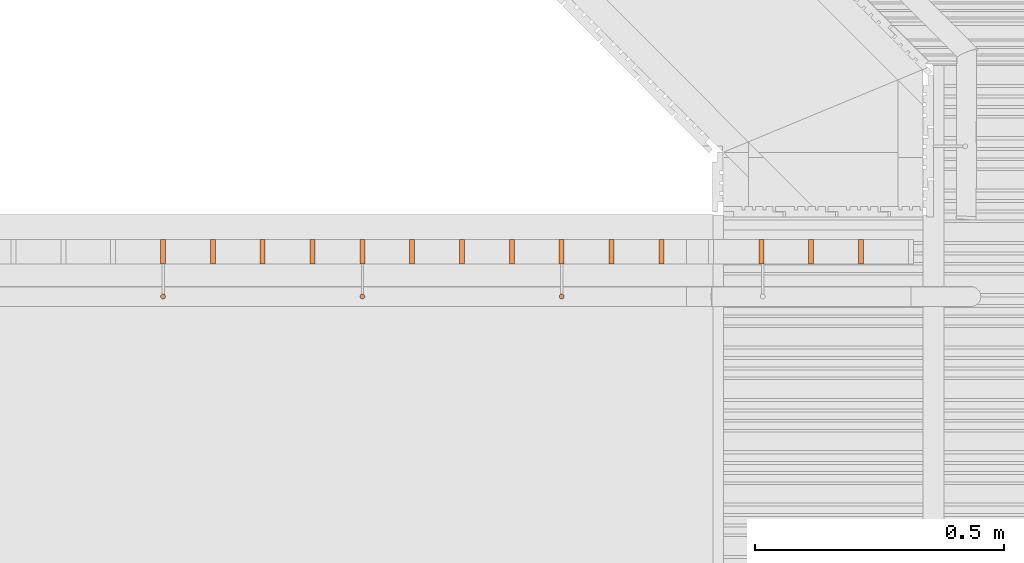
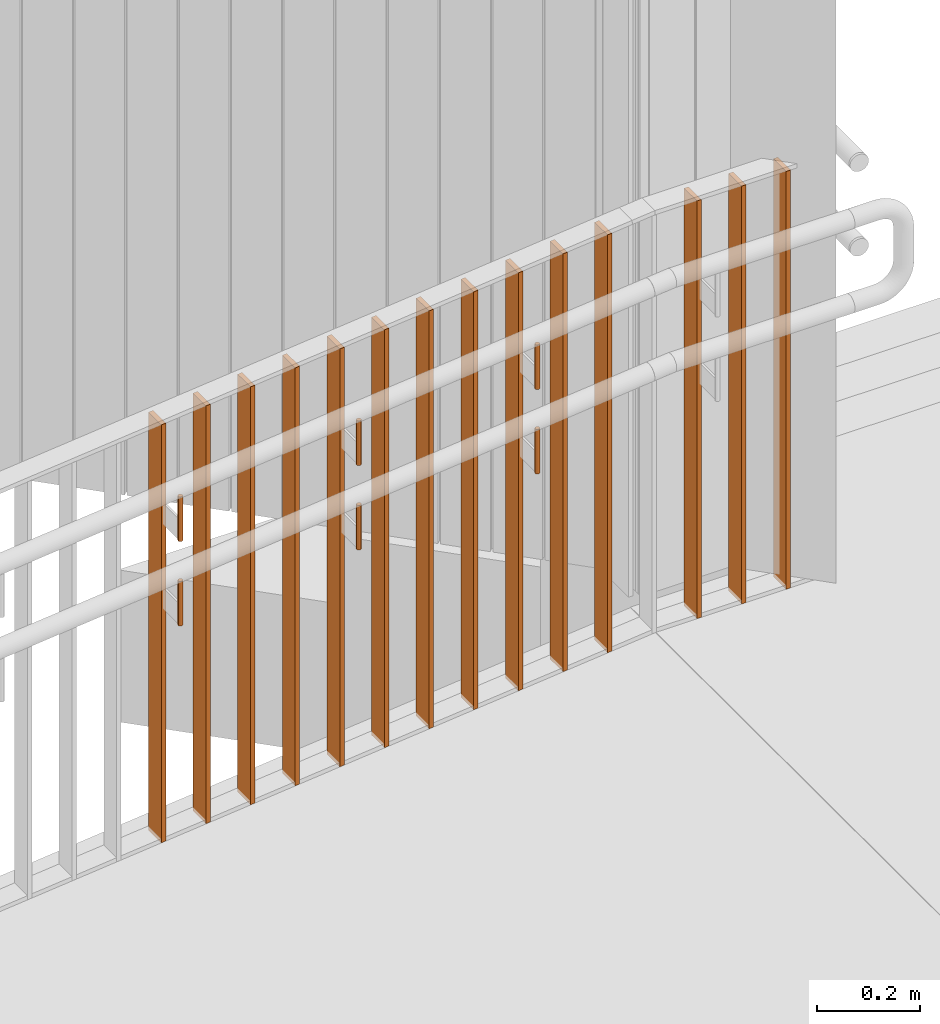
# One storey, part 373 of 418: 20 proxies, 1 element without a shape of its own.
"""IFC2X3 building model written with IfcOpenShell, lengths in millimetres."""

from ifc_helpers import new_model, entity, si_unit, converted_unit, derived_unit, money_unit, direction, frame, origin_with_axes, origin_2d_with_axis, place, context, subcontext, project, spatial, circle, extrude, faceted_brep, source, transform, mapped, material, type_object, element, aggregate, save


model = new_model("IFC2X3")

# Units and contexts
model_context = context("Model", 3, precision=0.01, world=origin_with_axes(), true_north=direction((0.0, 1.0)))
body_context = subcontext(model_context, "Body", "Model", "MODEL_VIEW")
ifc_project = project(units=[si_unit("LENGTHUNIT", "METRE", prefix="MILLI"), si_unit("AREAUNIT", "SQUARE_METRE"), si_unit("VOLUMEUNIT", "CUBIC_METRE"), converted_unit("PLANEANGLEUNIT", "DEGREE", entity("IfcPlaneAngleMeasure", 0.0174532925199), si_unit("PLANEANGLEUNIT", "RADIAN"), dimensions=[0, 0, 0, 0, 0, 0, 0]), si_unit("SOLIDANGLEUNIT", "STERADIAN"), money_unit("EUR"), converted_unit("TIMEUNIT", "Year", entity("IfcTimeMeasure", 31556926.0), si_unit("TIMEUNIT", "SECOND"), dimensions=[0, 0, 1, 0, 0, 0, 0]), si_unit("MASSUNIT", "GRAM", prefix="KILO"), si_unit("THERMODYNAMICTEMPERATUREUNIT", "DEGREE_CELSIUS"), si_unit("LUMINOUSINTENSITYUNIT", "LUMEN"), si_unit("ENERGYUNIT", "JOULE", prefix="MEGA"), derived_unit("THERMALCONDUCTANCEUNIT", [(si_unit("POWERUNIT", "WATT"), 1), (si_unit("LENGTHUNIT", "METRE"), -1), (si_unit("THERMODYNAMICTEMPERATUREUNIT", "KELVIN"), -1)]), derived_unit("SPECIFICHEATCAPACITYUNIT", [(si_unit("ENERGYUNIT", "JOULE"), 1), (si_unit("MASSUNIT", "GRAM", prefix="KILO"), -1), (si_unit("THERMODYNAMICTEMPERATUREUNIT", "KELVIN"), -1)]), derived_unit("MASSDENSITYUNIT", [(si_unit("MASSUNIT", "GRAM", prefix="KILO"), 1), (si_unit("VOLUMEUNIT", "CUBIC_METRE"), -1)])], contexts=[model_context])

# Site, building, storey
site_placement = place(None, origin_with_axes())
site = spatial("IfcSite", under=ifc_project, at=site_placement, Name="Paldiski mnt 245/1, Tallinn, Harjumaa", CompositionType="COMPLEX")
building_placement = place(site_placement, origin_with_axes())
building = spatial("IfcBuilding", under=site, at=building_placement, Name="RKAS Hoone üldnimetus (kasutust iseloomustav) -> IFC Project Manager -> SOLIBRI", CompositionType="ELEMENT")
storey_placement = place(building_placement, origin_with_axes())
storey = spatial("IfcBuildingStorey", under=building, at=storey_placement, Name="Esimene korrus", CompositionType="ELEMENT", Elevation=0.0)

# Proxies
ifc_material_1 = material(Name="ET-07_Teras - Roostevaba")
building_element_proxy_type_1 = type_object("IfcBuildingElementProxyType", Name="ET-07_Teras - Roostevaba D10", PredefinedType="NOTDEFINED")
for number, where, z_axis, x_axis, name in (
    (1, (-53723.2380713, 38424.7311931, 703.953624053), (0.0, 0.0, 1.0), (0.0, 1.0, 0.0), "POST"),
    (2, (-53723.2380713, 38424.7311931, 503.953574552), (0.0, 0.0, 1.0), (0.0, 1.0, 0.0), "POST"),
    (3, (-54123.2887744, 38424.7311931, 663.948553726), (0.0, 0.0, 1.0), (0.0, 1.0, 0.0), "POST"),
    (4, (-54123.2887744, 38424.7311931, 463.948504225), (0.0, 0.0, 1.0), (0.0, 1.0, 0.0), "POST"),
    (5, (-54523.2887744, 38424.7311931, 623.948553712), (0.0, 0.0, 1.0), (0.0, 1.0, 0.0), "POST"),
    (6, (-54523.2887744, 38424.7311931, 423.948504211), (0.0, 0.0, 1.0), (0.0, 1.0, 0.0), "POST"),
):
    element("IfcBuildingElementProxy", number, at=place(storey_placement, frame(where, z_axis=z_axis, x_axis=x_axis)), inside=storey, type_object=building_element_proxy_type_1, material=ifc_material_1, Name=name, context=body_context, shape_type="SweptSolid", body=[
        extrude(circle(Radius=5.0, at=origin_2d_with_axis()), frame((0.0, 0.0, 0.0), z_axis=(0.0, 0.0, -1.0), x_axis=(-1.0, 0.0, 0.0)), (0.0, 0.0, -1.0), 106.0),
    ])

# Railing, proxies
railing_type = type_object("IfcRailingType", Name="Railing Type", PredefinedType="NOTDEFINED")
railing_placement = place(storey_placement, frame((-53022.826789, 38539.7311919, -669.703891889), z_axis=(0.0, 0.0, 1.0), x_axis=(-0.773149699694, -0.634223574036, 0.0)))
railing = element("IfcRailing", 7, at=railing_placement, inside=storey, type_object=railing_type, Name="Trepipiire", PredefinedType="NOTDEFINED")
ifc_material_2 = material(Name="RAL7016")
building_element_proxy_type_2 = type_object("IfcBuildingElementProxyType", Name="IfcBuildingElementProxy", PredefinedType="NOTDEFINED")
shared_shape_1 = source(origin_with_axes(), body_context, "Body", "Brep", [
    faceted_brep([(25.0, 5.0, 0.000155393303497), (-25.0, 5.0, 0.000155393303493), (-25.0, 5.0, 990.000167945), (25.0, 5.0, 990.000167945), (25.0, -5.0, -0.000155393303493), (-25.0, -5.0, -0.000155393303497), (-25.0, -5.0, 989.999857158), (25.0, -5.0, 989.999857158)], [[[0, 1, 2, 3]], [[0, 4, 5, 1]], [[1, 5, 6, 2]], [[3, 2, 6, 7]], [[4, 0, 3, 7]], [[5, 4, 7, 6]]]),
])
proxy_1_placement = place(railing_placement, frame((93.1705591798, -44.0936152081, 649.531014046), z_axis=(0.0, 0.0, 1.0), x_axis=(-0.773149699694, 0.634223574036, 0.0)))
proxy_1 = element("IfcBuildingElementProxy", 8, at=proxy_1_placement, type_object=building_element_proxy_type_2, material=ifc_material_2, Name="BALUSTER - 001", context=body_context, shape_type="MappedRepresentation", body=[
    mapped(shared_shape_1, transform((0.0, 0.0, 0.0), x_axis=(3.18616450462e-09, 1.0, 0.0), y_axis=(-1.0, 3.18616450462e-09, 0.0), z_axis=(0.0, 0.0, 1.0))),
])
proxy_2_placement = place(railing_placement, frame((170.485528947, -107.515972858, 649.534121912), z_axis=(0.0, 0.0, 1.0), x_axis=(-0.773149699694, 0.634223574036, 0.0)))
proxy_2 = element("IfcBuildingElementProxy", 9, at=proxy_2_placement, type_object=building_element_proxy_type_2, material=ifc_material_2, Name="BALUSTER - 001", context=body_context, shape_type="MappedRepresentation", body=[
    mapped(shared_shape_1, transform((0.0, 0.0, 0.0), x_axis=(3.18617449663e-09, 1.0, 0.0), y_axis=(-1.0, 3.18617449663e-09, 0.0), z_axis=(0.0, 0.0, 1.0))),
])
proxy_3_placement = place(railing_placement, frame((247.800498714, -170.938330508, 649.537229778), z_axis=(0.0, 0.0, 1.0), x_axis=(-0.773149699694, 0.634223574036, 0.0)))
proxy_3 = element("IfcBuildingElementProxy", 10, at=proxy_3_placement, type_object=building_element_proxy_type_2, material=ifc_material_2, Name="BALUSTER - 001", context=body_context, shape_type="MappedRepresentation", body=[
    mapped(shared_shape_1, transform((0.0, 0.0, 0.0), x_axis=(3.18613341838e-09, 1.0, 0.0), y_axis=(-1.0, 3.18613341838e-09, 0.0), z_axis=(0.0, 0.0, 1.0))),
])
shared_shape_2 = source(origin_with_axes(), body_context, "Body", "Brep", [
    faceted_brep([(25.0, 5.0, -0.500145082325), (-25.0, 5.0, -0.500145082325), (-25.0, 5.0, 989.499867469), (25.0, 5.0, 989.499867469), (25.0, -5.0, 0.500145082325), (-25.0, -5.0, 0.500145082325), (-25.0, -5.0, 990.500157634), (25.0, -5.0, 990.500157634)], [[[0, 1, 2, 3]], [[0, 4, 5, 1]], [[1, 5, 6, 2]], [[3, 2, 6, 7]], [[4, 0, 3, 7]], [[5, 4, 7, 6]]]),
])
proxy_4_placement = place(railing_placement, frame((402.787622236, -298.076047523, 639.537450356), z_axis=(0.0, 0.0, 1.0), x_axis=(-0.773149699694, 0.634223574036, 0.0)))
proxy_4 = element("IfcBuildingElementProxy", 11, at=proxy_4_placement, type_object=building_element_proxy_type_2, material=ifc_material_2, Name="BALUSTER - 001", context=body_context, shape_type="MappedRepresentation", body=[
    mapped(shared_shape_2, transform((0.0, 0.0, 0.0), x_axis=(0.0, 1.0, 0.0), y_axis=(-1.0, 0.0, 0.0), z_axis=(0.0, 0.0, 1.0))),
])
proxy_5_placement = place(railing_placement, frame((480.102592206, -361.498404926, 629.534548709), z_axis=(0.0, 0.0, 1.0), x_axis=(-0.773149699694, 0.634223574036, 0.0)))
proxy_5 = element("IfcBuildingElementProxy", 12, at=proxy_5_placement, type_object=building_element_proxy_type_2, material=ifc_material_2, Name="BALUSTER - 001", context=body_context, shape_type="MappedRepresentation", body=[
    mapped(shared_shape_2, transform((0.0, 0.0, 0.0), x_axis=(0.0, 1.0, 0.0), y_axis=(-1.0, 0.0, 0.0), z_axis=(0.0, 0.0, 1.0))),
])
proxy_6_placement = place(railing_placement, frame((557.417562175, -424.92076233, 619.531647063), z_axis=(0.0, 0.0, 1.0), x_axis=(-0.773149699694, 0.634223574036, 0.0)))
proxy_6 = element("IfcBuildingElementProxy", 13, at=proxy_6_placement, type_object=building_element_proxy_type_2, material=ifc_material_2, Name="BALUSTER - 001", context=body_context, shape_type="MappedRepresentation", body=[
    mapped(shared_shape_2, transform((0.0, 0.0, 0.0), x_axis=(0.0, 1.0, 0.0), y_axis=(-1.0, 0.0, 0.0), z_axis=(0.0, 0.0, 1.0))),
])
proxy_7_placement = place(railing_placement, frame((634.732532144, -488.343119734, 609.528745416), z_axis=(0.0, 0.0, 1.0), x_axis=(-0.773149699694, 0.634223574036, 0.0)))
proxy_7 = element("IfcBuildingElementProxy", 14, at=proxy_7_placement, type_object=building_element_proxy_type_2, material=ifc_material_2, Name="BALUSTER - 001", context=body_context, shape_type="MappedRepresentation", body=[
    mapped(shared_shape_2, transform((0.0, 0.0, 0.0), x_axis=(0.0, 1.0, 0.0), y_axis=(-1.0, 0.0, 0.0), z_axis=(0.0, 0.0, 1.0))),
])
proxy_8_placement = place(railing_placement, frame((712.047502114, -551.765477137, 599.52584377), z_axis=(0.0, 0.0, 1.0), x_axis=(-0.773149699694, 0.634223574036, 0.0)))
proxy_8 = element("IfcBuildingElementProxy", 15, at=proxy_8_placement, type_object=building_element_proxy_type_2, material=ifc_material_2, Name="BALUSTER - 001", context=body_context, shape_type="MappedRepresentation", body=[
    mapped(shared_shape_2, transform((0.0, 0.0, 0.0), x_axis=(0.0, 1.0, 0.0), y_axis=(-1.0, 0.0, 0.0), z_axis=(0.0, 0.0, 1.0))),
])
proxy_9_placement = place(railing_placement, frame((789.362472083, -615.187834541, 589.522942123), z_axis=(0.0, 0.0, 1.0), x_axis=(-0.773149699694, 0.634223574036, 0.0)))
proxy_9 = element("IfcBuildingElementProxy", 16, at=proxy_9_placement, type_object=building_element_proxy_type_2, material=ifc_material_2, Name="BALUSTER - 001", context=body_context, shape_type="MappedRepresentation", body=[
    mapped(shared_shape_2, transform((0.0, 0.0, 0.0), x_axis=(0.0, 1.0, 0.0), y_axis=(-1.0, 0.0, 0.0), z_axis=(0.0, 0.0, 1.0))),
])
proxy_10_placement = place(railing_placement, frame((866.677442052, -678.610191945, 579.520040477), z_axis=(0.0, 0.0, 1.0), x_axis=(-0.773149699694, 0.634223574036, 0.0)))
proxy_10 = element("IfcBuildingElementProxy", 17, at=proxy_10_placement, type_object=building_element_proxy_type_2, material=ifc_material_2, Name="BALUSTER - 001", context=body_context, shape_type="MappedRepresentation", body=[
    mapped(shared_shape_2, transform((0.0, 0.0, 0.0), x_axis=(0.0, 1.0, 0.0), y_axis=(-1.0, 0.0, 0.0), z_axis=(0.0, 0.0, 1.0))),
])
proxy_11_placement = place(railing_placement, frame((943.992412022, -742.032549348, 569.51713883), z_axis=(0.0, 0.0, 1.0), x_axis=(-0.773149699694, 0.634223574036, 0.0)))
proxy_11 = element("IfcBuildingElementProxy", 18, at=proxy_11_placement, type_object=building_element_proxy_type_2, material=ifc_material_2, Name="BALUSTER - 001", context=body_context, shape_type="MappedRepresentation", body=[
    mapped(shared_shape_2, transform((0.0, 0.0, 0.0), x_axis=(0.0, 1.0, 0.0), y_axis=(-1.0, 0.0, 0.0), z_axis=(0.0, 0.0, 1.0))),
])
proxy_12_placement = place(railing_placement, frame((1021.30738199, -805.454906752, 559.514237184), z_axis=(0.0, 0.0, 1.0), x_axis=(-0.773149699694, 0.634223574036, 0.0)))
proxy_12 = element("IfcBuildingElementProxy", 19, at=proxy_12_placement, type_object=building_element_proxy_type_2, material=ifc_material_2, Name="BALUSTER - 001", context=body_context, shape_type="MappedRepresentation", body=[
    mapped(shared_shape_2, transform((0.0, 0.0, 0.0), x_axis=(0.0, 1.0, 0.0), y_axis=(-1.0, 0.0, 0.0), z_axis=(0.0, 0.0, 1.0))),
])
proxy_13_placement = place(railing_placement, frame((1098.62235196, -868.877264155, 549.511335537), z_axis=(0.0, 0.0, 1.0), x_axis=(-0.773149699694, 0.634223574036, 0.0)))
proxy_13 = element("IfcBuildingElementProxy", 20, at=proxy_13_placement, type_object=building_element_proxy_type_2, material=ifc_material_2, Name="BALUSTER - 001", context=body_context, shape_type="MappedRepresentation", body=[
    mapped(shared_shape_2, transform((0.0, 0.0, 0.0), x_axis=(0.0, 1.0, 0.0), y_axis=(-1.0, 0.0, 0.0), z_axis=(0.0, 0.0, 1.0))),
])
proxy_14_placement = place(railing_placement, frame((1175.93732193, -932.299621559, 539.508433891), z_axis=(0.0, 0.0, 1.0), x_axis=(-0.773149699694, 0.634223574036, 0.0)))
proxy_14 = element("IfcBuildingElementProxy", 21, at=proxy_14_placement, type_object=building_element_proxy_type_2, material=ifc_material_2, Name="BALUSTER - 001", context=body_context, shape_type="MappedRepresentation", body=[
    mapped(shared_shape_2, transform((0.0, 0.0, 0.0), x_axis=(0.0, 1.0, 0.0), y_axis=(-1.0, 0.0, 0.0), z_axis=(0.0, 0.0, 1.0))),
])
aggregate(railing, [proxy_1, proxy_2, proxy_3, proxy_4, proxy_5, proxy_6, proxy_7, proxy_8, proxy_9, proxy_10, proxy_11, proxy_12, proxy_13, proxy_14])

save(model, "model.ifc")
